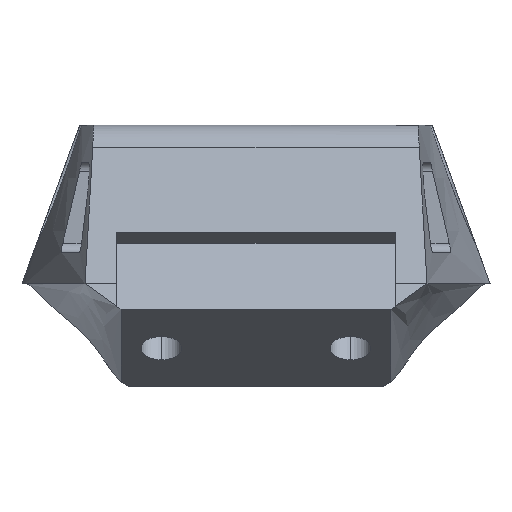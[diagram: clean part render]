
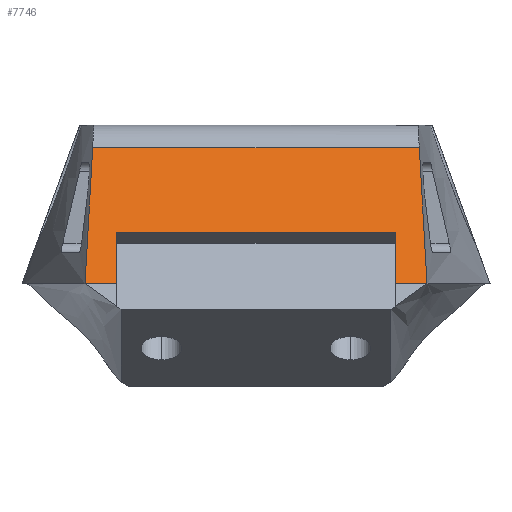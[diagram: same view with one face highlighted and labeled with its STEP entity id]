
A CAD part, front view. The second image highlights one B-rep face of the part: STEP entity #7746.
In plain terms, the highlighted planar face has unit normal (0, -0.926, 0.378).
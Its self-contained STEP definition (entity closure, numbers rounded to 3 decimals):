
#13 = CARTESIAN_POINT ( 'NONE',  ( 19., -90.687, 0. ) ) ;
#189 = DIRECTION ( 'NONE',  ( 1., 0., 0. ) ) ;
#410 = ORIENTED_EDGE ( 'NONE', *, *, #1677, .F. ) ;
#859 = CARTESIAN_POINT ( 'NONE',  ( -15.5, -88.371, 5.676 ) ) ;
#1132 = VERTEX_POINT ( 'NONE', #13 ) ;
#1243 = ORIENTED_EDGE ( 'NONE', *, *, #9594, .F. ) ;
#1356 = CARTESIAN_POINT ( 'NONE',  ( 18.141, -84.522, 15.111 ) ) ;
#1465 = LINE ( 'NONE', #1590, #2331 ) ;
#1474 = VECTOR ( 'NONE', #1729, 1000. ) ;
#1586 = DIRECTION ( 'NONE',  ( 0., 0.378, 0.926 ) ) ;
#1590 = CARTESIAN_POINT ( 'NONE',  ( -19., -88.371, 5.676 ) ) ;
#1677 = EDGE_CURVE ( 'NONE', #11067, #9730, #8871, .T. ) ;
#1729 = DIRECTION ( 'NONE',  ( 1., 0., 0. ) ) ;
#1852 = CARTESIAN_POINT ( 'NONE',  ( 19., -90.687, 0. ) ) ;
#2286 = EDGE_LOOP ( 'NONE', ( #5045, #12021, #1243, #8969, #4406, #9068, #10808, #410 ) ) ;
#2331 = VECTOR ( 'NONE', #9050, 1000. ) ;
#2397 = CARTESIAN_POINT ( 'NONE',  ( 15.5, -90.687, 0. ) ) ;
#2625 = LINE ( 'NONE', #10833, #11331 ) ;
#2885 = EDGE_CURVE ( 'NONE', #7623, #1132, #12019, .T. ) ;
#2997 = DIRECTION ( 'NONE',  ( 1., 0., 0. ) ) ;
#3235 = CARTESIAN_POINT ( 'NONE',  ( -18.141, -84.522, 15.111 ) ) ;
#3418 = EDGE_CURVE ( 'NONE', #11067, #11038, #8506, .T. ) ;
#3486 = DIRECTION ( 'NONE',  ( -1., 0., 0. ) ) ;
#3559 = CARTESIAN_POINT ( 'NONE',  ( 18.714, -88.632, 5.037 ) ) ;
#4010 = VERTEX_POINT ( 'NONE', #1356 ) ;
#4032 = CARTESIAN_POINT ( 'NONE',  ( -19., -90.687, 0. ) ) ;
#4092 = FACE_OUTER_BOUND ( 'NONE', #2286, .T. ) ;
#4096 = CARTESIAN_POINT ( 'NONE',  ( 19., -90.687, 0. ) ) ;
#4406 = ORIENTED_EDGE ( 'NONE', *, *, #2885, .T. ) ;
#4446 = EDGE_CURVE ( 'NONE', #11038, #10622, #5138, .T. ) ;
#4950 = PLANE ( 'NONE',  #5086 ) ;
#5045 = ORIENTED_EDGE ( 'NONE', *, *, #3418, .T. ) ;
#5086 = AXIS2_PLACEMENT_3D ( 'NONE', #4032, #8676, #2997 ) ;
#5138 = LINE ( 'NONE', #10026, #10851 ) ;
#5561 = VECTOR ( 'NONE', #189, 1000. ) ;
#5639 = CARTESIAN_POINT ( 'NONE',  ( 18.428, -86.577, 10.074 ) ) ;
#6046 = CARTESIAN_POINT ( 'NONE',  ( -18.714, -88.632, 5.037 ) ) ;
#6118 = CARTESIAN_POINT ( 'NONE',  ( 15.5, -90.687, 0. ) ) ;
#6537 = EDGE_CURVE ( 'NONE', #1132, #4010, #10979, .T. ) ;
#6998 = LINE ( 'NONE', #2397, #7811 ) ;
#7025 = CARTESIAN_POINT ( 'NONE',  ( -19., -90.687, 0. ) ) ;
#7169 = CARTESIAN_POINT ( 'NONE',  ( 15.5, -88.371, 5.676 ) ) ;
#7415 = CARTESIAN_POINT ( 'NONE',  ( 19., -90.687, 0. ) ) ;
#7515 = CARTESIAN_POINT ( 'NONE',  ( -19., -90.687, 0. ) ) ;
#7623 = VERTEX_POINT ( 'NONE', #6118 ) ;
#7746 = ADVANCED_FACE ( 'NONE', ( #4092 ), #4950, .T. ) ;
#7811 = VECTOR ( 'NONE', #11772, 1000. ) ;
#8506 = LINE ( 'NONE', #4096, #5561 ) ;
#8676 = DIRECTION ( 'NONE',  ( 0., -0.926, 0.378 ) ) ;
#8871 = B_SPLINE_CURVE_WITH_KNOTS ( 'NONE', 3,
 ( #7025, #6046, #10761, #3235 ),
 .UNSPECIFIED., .F., .F.,
 ( 4, 4 ),
 ( 0., 0.859 ),
 .UNSPECIFIED. ) ;
#8969 = ORIENTED_EDGE ( 'NONE', *, *, #10082, .F. ) ;
#9050 = DIRECTION ( 'NONE',  ( -1., 0., 0. ) ) ;
#9068 = ORIENTED_EDGE ( 'NONE', *, *, #6537, .T. ) ;
#9187 = CARTESIAN_POINT ( 'NONE',  ( 18.141, -84.522, 15.111 ) ) ;
#9236 = CARTESIAN_POINT ( 'NONE',  ( -18.141, -84.522, 15.111 ) ) ;
#9524 = EDGE_CURVE ( 'NONE', #4010, #9730, #2625, .T. ) ;
#9594 = EDGE_CURVE ( 'NONE', #11478, #10622, #1465, .T. ) ;
#9730 = VERTEX_POINT ( 'NONE', #9236 ) ;
#10026 = CARTESIAN_POINT ( 'NONE',  ( -15.5, -90.687, 0. ) ) ;
#10082 = EDGE_CURVE ( 'NONE', #7623, #11478, #6998, .T. ) ;
#10558 = CARTESIAN_POINT ( 'NONE',  ( -15.5, -90.687, 0. ) ) ;
#10622 = VERTEX_POINT ( 'NONE', #859 ) ;
#10761 = CARTESIAN_POINT ( 'NONE',  ( -18.428, -86.577, 10.074 ) ) ;
#10808 = ORIENTED_EDGE ( 'NONE', *, *, #9524, .T. ) ;
#10833 = CARTESIAN_POINT ( 'NONE',  ( -19., -84.522, 15.111 ) ) ;
#10851 = VECTOR ( 'NONE', #1586, 1000. ) ;
#10979 = B_SPLINE_CURVE_WITH_KNOTS ( 'NONE', 3,
 ( #7415, #3559, #5639, #9187 ),
 .UNSPECIFIED., .F., .F.,
 ( 4, 4 ),
 ( 0., 0.859 ),
 .UNSPECIFIED. ) ;
#11038 = VERTEX_POINT ( 'NONE', #10558 ) ;
#11067 = VERTEX_POINT ( 'NONE', #7515 ) ;
#11331 = VECTOR ( 'NONE', #3486, 1000. ) ;
#11478 = VERTEX_POINT ( 'NONE', #7169 ) ;
#11772 = DIRECTION ( 'NONE',  ( 0., 0.378, 0.926 ) ) ;
#12019 = LINE ( 'NONE', #1852, #1474 ) ;
#12021 = ORIENTED_EDGE ( 'NONE', *, *, #4446, .T. ) ;
